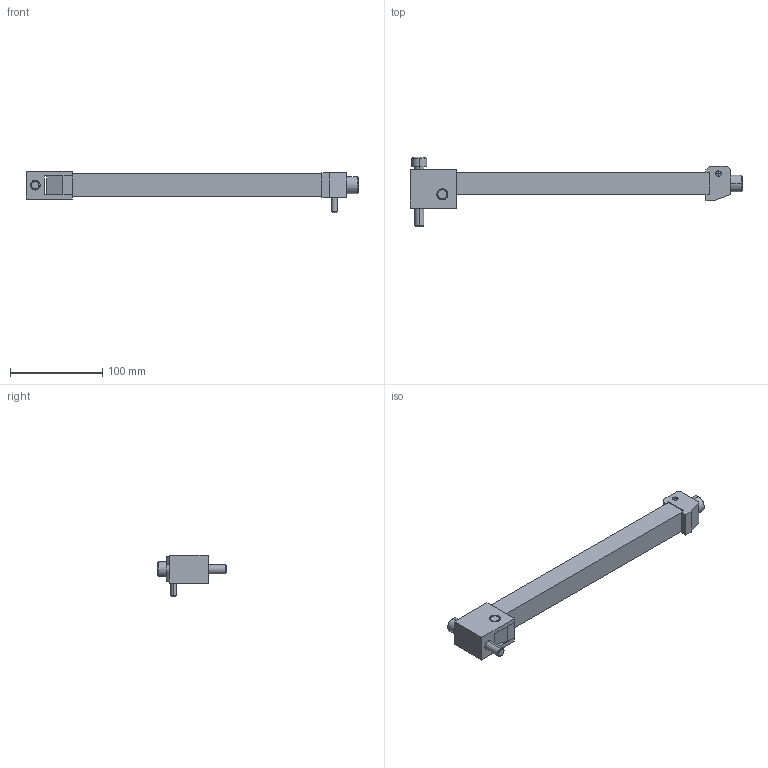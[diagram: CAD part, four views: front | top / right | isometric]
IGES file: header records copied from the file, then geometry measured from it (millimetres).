
Start section: START RECORD GO HERE.
Global section: file name: ZH90-4.igs; native system: DASSAULT SYSTEMES CATIA V5 R20 - www.3ds.com; preprocessor: CATIA Version 5 Release 20 ; author: Utente; organization: NB04-ASUS; date: 20210221.173540; units: millimetre
Bounding box: 359 x 75 x 44.7 mm (x, y, z)
Surface area: 61377.6 mm2 (no closed solid volume)
Topology: 0 solids, 0 shells, 127 faces, 684 edges, 674 vertices
Faces by surface type: plane 67, revolution 60
